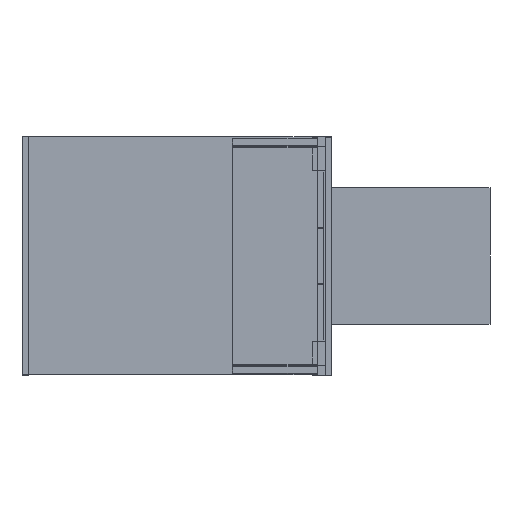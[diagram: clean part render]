
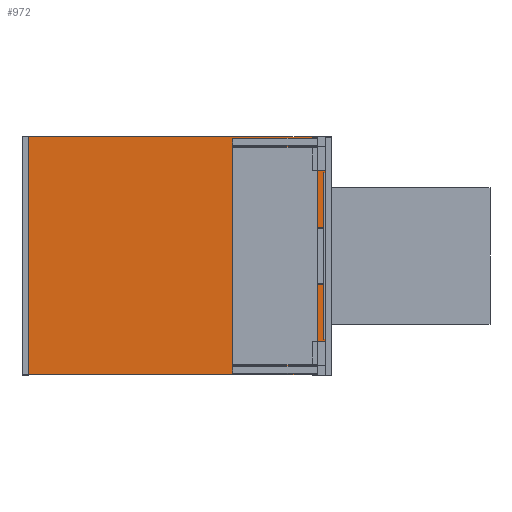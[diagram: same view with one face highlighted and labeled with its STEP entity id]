
A CAD part, left-side view. The second image highlights one B-rep face of the part: STEP entity #972.
In plain terms, the highlighted planar face has unit normal (-1, 0, 0) as drawn and (0, 0, 1) by its records, which use the part's own axes.
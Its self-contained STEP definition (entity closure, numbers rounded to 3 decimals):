
#6 = CARTESIAN_POINT ( 'NONE',  ( -148.376, 457.487, 0. ) ) ;
#92 = DIRECTION ( 'NONE',  ( -1., 0., 0. ) ) ;
#122 = CARTESIAN_POINT ( 'NONE',  ( -148.176, 73.687, 0. ) ) ;
#178 = ORIENTED_EDGE ( 'NONE', *, *, #1246, .F. ) ;
#229 = DIRECTION ( 'NONE',  ( 1., 0., 0. ) ) ;
#554 = CARTESIAN_POINT ( 'NONE',  ( -455.776, 73.687, 0. ) ) ;
#588 = AXIS2_PLACEMENT_3D ( 'NONE', #1718, #5387, #5004 ) ;
#590 = VERTEX_POINT ( 'NONE', #1960 ) ;
#608 = CARTESIAN_POINT ( 'NONE',  ( -455.976, 457.687, 0. ) ) ;
#628 = PLANE ( 'NONE',  #2878 ) ;
#774 = CARTESIAN_POINT ( 'NONE',  ( -148.176, 73.687, 0. ) ) ;
#879 = VERTEX_POINT ( 'NONE', #554 ) ;
#972 = ADVANCED_FACE ( 'NONE', ( #985 ), #628, .F. ) ;
#985 = FACE_OUTER_BOUND ( 'NONE', #4036, .T. ) ;
#1061 = CARTESIAN_POINT ( 'NONE',  ( -455.776, 457.487, 0. ) ) ;
#1067 = VERTEX_POINT ( 'NONE', #2258 ) ;
#1246 = EDGE_CURVE ( 'NONE', #1067, #1952, #1983, .T. ) ;
#1248 = LINE ( 'NONE', #774, #1542 ) ;
#1299 = DIRECTION ( 'NONE',  ( 0., 0., 1. ) ) ;
#1326 = EDGE_CURVE ( 'NONE', #1927, #590, #2777, .T. ) ;
#1512 = DIRECTION ( 'NONE',  ( 0., 0., 1. ) ) ;
#1542 = VECTOR ( 'NONE', #4122, 1000. ) ;
#1592 = VERTEX_POINT ( 'NONE', #3048 ) ;
#1674 = DIRECTION ( 'NONE',  ( 0., 0., 1. ) ) ;
#1694 = LINE ( 'NONE', #2876, #1964 ) ;
#1713 = ORIENTED_EDGE ( 'NONE', *, *, #3846, .T. ) ;
#1718 = CARTESIAN_POINT ( 'NONE',  ( -148.376, 73.887, 0. ) ) ;
#1789 = DIRECTION ( 'NONE',  ( 0., 0., -1. ) ) ;
#1927 = VERTEX_POINT ( 'NONE', #2446 ) ;
#1928 = CARTESIAN_POINT ( 'NONE',  ( -148.176, 73.887, 0. ) ) ;
#1952 = VERTEX_POINT ( 'NONE', #3740 ) ;
#1960 = CARTESIAN_POINT ( 'NONE',  ( -148.376, 457.687, 0. ) ) ;
#1964 = VECTOR ( 'NONE', #3372, 1000. ) ;
#1983 = LINE ( 'NONE', #608, #3362 ) ;
#2062 = CARTESIAN_POINT ( 'NONE',  ( -148.376, 73.687, 0. ) ) ;
#2063 = AXIS2_PLACEMENT_3D ( 'NONE', #2121, #1299, #2638 ) ;
#2081 = EDGE_CURVE ( 'NONE', #3279, #3468, #4436, .T. ) ;
#2121 = CARTESIAN_POINT ( 'NONE',  ( -455.776, 73.887, 0. ) ) ;
#2124 = ORIENTED_EDGE ( 'NONE', *, *, #4232, .T. ) ;
#2258 = CARTESIAN_POINT ( 'NONE',  ( -455.976, 73.887, 0. ) ) ;
#2288 = ORIENTED_EDGE ( 'NONE', *, *, #5120, .F. ) ;
#2317 = CIRCLE ( 'NONE', #4408, 0.2 ) ;
#2415 = CIRCLE ( 'NONE', #2063, 0.2 ) ;
#2446 = CARTESIAN_POINT ( 'NONE',  ( -455.776, 457.687, 0. ) ) ;
#2638 = DIRECTION ( 'NONE',  ( -1., 0., 0. ) ) ;
#2777 = LINE ( 'NONE', #3985, #4482 ) ;
#2876 = CARTESIAN_POINT ( 'NONE',  ( -148.176, 457.687, 0. ) ) ;
#2878 = AXIS2_PLACEMENT_3D ( 'NONE', #122, #1789, #3472 ) ;
#3048 = CARTESIAN_POINT ( 'NONE',  ( -148.176, 457.487, 0. ) ) ;
#3226 = DIRECTION ( 'NONE',  ( 0., 1., 0. ) ) ;
#3279 = VERTEX_POINT ( 'NONE', #2062 ) ;
#3362 = VECTOR ( 'NONE', #3226, 1000. ) ;
#3372 = DIRECTION ( 'NONE',  ( 0., -1., 0. ) ) ;
#3468 = VERTEX_POINT ( 'NONE', #1928 ) ;
#3472 = DIRECTION ( 'NONE',  ( -1., 0., 0. ) ) ;
#3529 = ORIENTED_EDGE ( 'NONE', *, *, #5397, .T. ) ;
#3740 = CARTESIAN_POINT ( 'NONE',  ( -455.976, 457.487, 0. ) ) ;
#3846 = EDGE_CURVE ( 'NONE', #1927, #1952, #2317, .T. ) ;
#3985 = CARTESIAN_POINT ( 'NONE',  ( -148.176, 457.687, 0. ) ) ;
#4036 = EDGE_LOOP ( 'NONE', ( #178, #3529, #2288, #4940, #4111, #2124, #4276, #1713 ) ) ;
#4111 = ORIENTED_EDGE ( 'NONE', *, *, #4692, .F. ) ;
#4122 = DIRECTION ( 'NONE',  ( -1., 0., 0. ) ) ;
#4232 = EDGE_CURVE ( 'NONE', #1592, #590, #5025, .T. ) ;
#4261 = DIRECTION ( 'NONE',  ( -1., 0., 0. ) ) ;
#4276 = ORIENTED_EDGE ( 'NONE', *, *, #1326, .F. ) ;
#4408 = AXIS2_PLACEMENT_3D ( 'NONE', #1061, #1512, #92 ) ;
#4436 = CIRCLE ( 'NONE', #588, 0.2 ) ;
#4482 = VECTOR ( 'NONE', #229, 1000. ) ;
#4490 = AXIS2_PLACEMENT_3D ( 'NONE', #6, #1674, #4261 ) ;
#4692 = EDGE_CURVE ( 'NONE', #1592, #3468, #1694, .T. ) ;
#4940 = ORIENTED_EDGE ( 'NONE', *, *, #2081, .T. ) ;
#5004 = DIRECTION ( 'NONE',  ( -1., 0., 0. ) ) ;
#5025 = CIRCLE ( 'NONE', #4490, 0.2 ) ;
#5120 = EDGE_CURVE ( 'NONE', #3279, #879, #1248, .T. ) ;
#5387 = DIRECTION ( 'NONE',  ( 0., 0., 1. ) ) ;
#5397 = EDGE_CURVE ( 'NONE', #1067, #879, #2415, .T. ) ;
